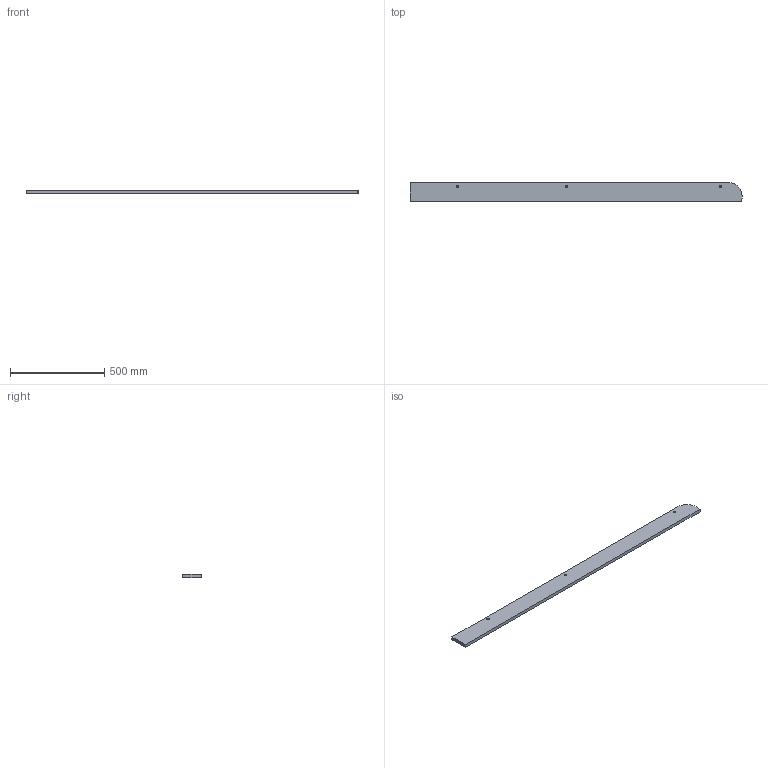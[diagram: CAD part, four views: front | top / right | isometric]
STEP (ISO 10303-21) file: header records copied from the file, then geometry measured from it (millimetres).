
FILE_DESCRIPTION (( 'STEP AP214' ), '1' );
FILE_NAME ('PANAC0025.STEP', '2025-01-27T10:04:15', ( '' ), ( '' ), 'SwSTEP 2.0', 'SolidWorks 2022', '' );
FILE_SCHEMA (( 'AUTOMOTIVE_DESIGN' ));
Length unit declared in the file: millimetre
Products named in the file (1): PANAC0025
Bounding box: 1765 x 100 x 18 mm (x, y, z)
Volume: 3155513.4 mm3; surface area: 418579.5 mm2
Topology: 1 solids, 1 shells, 25 faces, 57 edges, 31 vertices
Faces by surface type: cone 12, cylinder 7, plane 6
Entity records: 687 total; most frequent: DIRECTION 123, CARTESIAN_POINT 108, ORIENTED_EDGE 102, EDGE_CURVE 51, AXIS2_PLACEMENT_3D 46, VERTEX_POINT 31, VECTOR 31, LINE 31
